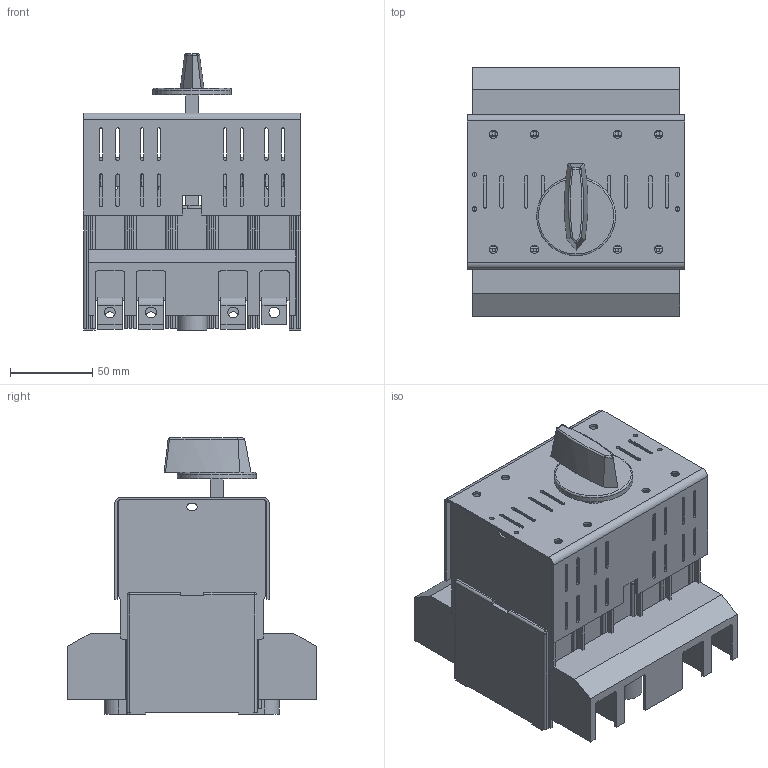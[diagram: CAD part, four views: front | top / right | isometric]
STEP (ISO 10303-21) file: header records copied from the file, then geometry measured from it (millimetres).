
FILE_DESCRIPTION(/* description */ (''),/* implementation_level */ '2;1');
FILE_NAME(/* name */ 'RAB 000 P3 NC-R, P4 C-R z oslona zaciskow.stp',/* time_stamp */ '2021-08-19T10:43:32+02:00',/* author */ (''),/* organization */ (''),/* preprocessor_version */ 'ST-DEVELOPER v18.1',/* originating_system */ 'SIEMENS PLM Software NX 1965',/* authorisation */ '');
FILE_SCHEMA (('AUTOMOTIVE_DESIGN { 1 0 10303 214 3 1 1 1 }'));
Length unit declared in the file: millimetre
Products named in the file (1): RAB 000 P3 NC-R, P4 C-R z oslona zaciskow
Bounding box: 132.5 x 151.03 x 168 mm (x, y, z)
Volume: 788226.9 mm3; surface area: 266782.1 mm2
Topology: 1 solids, 1 shells, 1293 faces, 3736 edges, 2423 vertices
Faces by surface type: plane 844, cylinder 352, extrusion 64, sphere 25, bspline 7, torus 1
Full cylindrical faces by diameter (mm): 2.7 x4, 5 x8, 5.8 x2, 6.5 x8, 10 x2, 11.5 x2, 20 x1, 48 x1
Entity records: 43034 total; most frequent: CARTESIAN_POINT 8967, ORIENTED_EDGE 7330, DIRECTION 6699, EDGE_CURVE 3665, VECTOR 2833, LINE 2769, VERTEX_POINT 2392, AXIS2_PLACEMENT_3D 1933
